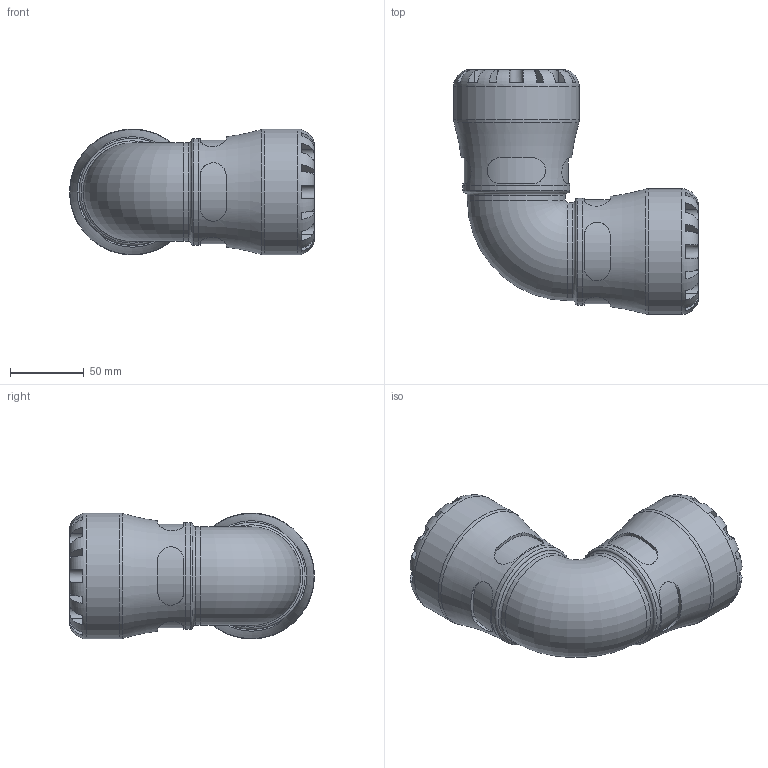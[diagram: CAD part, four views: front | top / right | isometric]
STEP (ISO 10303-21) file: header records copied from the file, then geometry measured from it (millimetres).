
FILE_DESCRIPTION(/* description */ ('PLASSON G-PLASS 90° ELBOW 50X50'),/* implementation_level */ '2;1');
FILE_NAME(/* name */ 'C:\Dropbox\KIMPROJECTS-Inventor 2019\99-16-3568-Processing\S1\150500\stp\150500050.stp',/* time_stamp */ '2023-10-17T19:35:12+03:00',/* author */ ('KIM'),/* organization */ (''),/* preprocessor_version */ 'ST-DEVELOPER v17.2',/* originating_system */ 'Autodesk Inventor 2019',/* authorisation */ '');
FILE_SCHEMA (('AUTOMOTIVE_DESIGN { 1 0 10303 214 3 1 1 }'));
Length unit declared in the file: millimetre
Products named in the file (1): 150500050
Bounding box: 165.5 x 165.5 x 85 mm (x, y, z)
Volume: 610011 mm3; surface area: 102586 mm2
Topology: 1 solids, 1 shells, 196 faces, 521 edges, 335 vertices
Faces by surface type: plane 116, cylinder 66, torus 12, cone 2
Full cylindrical faces by diameter (mm): 41.667 x2, 50 x2, 66.3 x2, 72.25 x2, 85 x2
Entity records: 7987 total; most frequent: CARTESIAN_POINT 2949, ORIENTED_EDGE 1042, DIRECTION 1008, EDGE_CURVE 521, AXIS2_PLACEMENT_3D 418, VERTEX_POINT 335, CIRCLE 221, EDGE_LOOP 206
